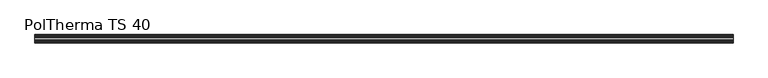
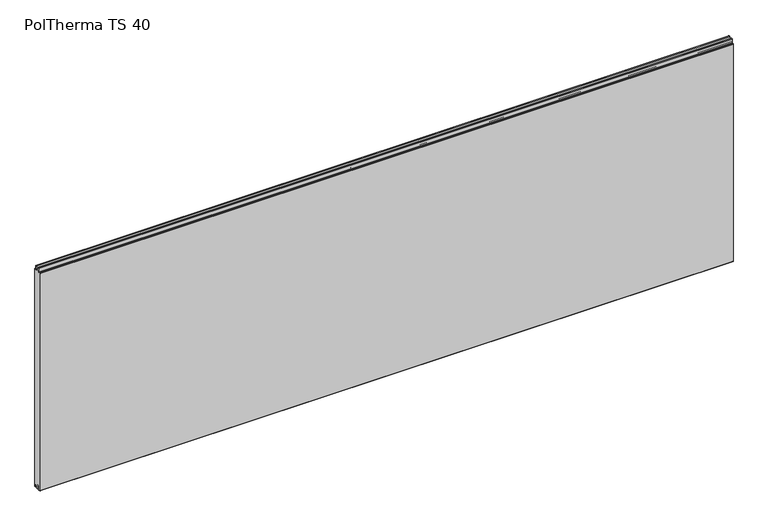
"""IFC4 building model written with IfcOpenShell, lengths in millimetres: plate geometry, Europanels_Poltherma TS_Hz : PolTherma TS 40."""

from ifc_helpers import new_model, si_unit, point, frame, frame_2d, origin, place, context, project, spatial, polyline, circle_curve, trimmed, segment, composite_curve, outline, extrude, source, transform, mapped, element, save


def poltherma_ts_40_e0eb3698(model_context):
    return source(origin(), model_context, "Body", "SweptSolid", [
        extrude(outline(composite_curve([segment(trimmed(circle_curve(frame_2d((-9.1874198, 1117.5011047)), 2.0), [point((-11.1836192, 1117.624345))], [point((-9.1874198, 1119.5011047))], False, "CARTESIAN"), True, "CONTINUOUS"), segment(polyline([(-9.1874198, 1119.5011047), (-6.4480373, 1119.5011047)]), True, "CONTINUOUS"), segment(trimmed(circle_curve(frame_2d((-6.4480373, 1117.5011047)), 2.0), [point((-6.4480373, 1119.5011047))], [point((-4.4498501, 1117.5862394))], False, "CARTESIAN"), True, "CONTINUOUS"), segment(polyline([(-4.4498501, 1117.5862394), (-3.7101357, 1100.2244834)]), True, "CONTINUOUS"), segment(trimmed(circle_curve(frame_2d((-1.9117672, 1100.3011047)), 1.8), [point((-3.7101357, 1100.2244834))], [point((-1.9117672, 1098.5011047))], True, "CARTESIAN"), True, "CONTINUOUS"), segment(polyline([(-1.9117672, 1098.5011047), (6.113894, 1098.5011047)]), True, "CONTINUOUS"), segment(trimmed(circle_curve(frame_2d((6.113894, 1100.5011047)), 2.0), [point((6.113894, 1098.5011047))], [point((8.1120505, 1100.4152514))], True, "CARTESIAN"), True, "CONTINUOUS"), segment(polyline([(8.1120505, 1100.4152514), (8.8693289, 1117.5889644)]), True, "CONTINUOUS"), segment(trimmed(circle_curve(frame_2d((10.8984404, 1117.5046542)), 2.0308623), [point((8.8693289, 1117.5889644))], [point((11.1407625, 1119.5210078))], False, "CARTESIAN"), True, "CONTINUOUS"), segment(trimmed(circle_curve(frame_2d((11.1407625, 1117.4973942)), 2.0236135), [point((11.1407625, 1119.5210078))], [point((13.1604251, 1117.6237846))], False, "CARTESIAN"), True, "CONTINUOUS"), segment(polyline([(13.1604251, 1117.6237846), (14.2596673, 1100.3765791)]), True, "CONTINUOUS"), segment(trimmed(circle_curve(frame_2d((16.2557869, 1100.5011047)), 2.0), [point((14.2596673, 1100.3765791))], [point((16.2557869, 1098.5011047))], True, "CARTESIAN"), True, "CONTINUOUS"), segment(polyline([(16.2557869, 1098.5011047), (18.0, 1098.5011047)]), True, "CONTINUOUS"), segment(trimmed(circle_curve(frame_2d((18.0, 1096.5011047)), 2.0), [point((18.0, 1098.5011047))], [point((20.0, 1096.5011047))], False, "CARTESIAN"), True, "CONTINUOUS"), segment(polyline([(20.0, 1096.5011047), (20.0, 3.8074585)]), True, "CONTINUOUS"), segment(trimmed(circle_curve(frame_2d((17.6334587, 3.8074585)), 2.3665413), [point((20.0, 3.8074585))], [point((15.2703732, 3.6796133))], False, "CARTESIAN"), True, "CONTINUOUS"), segment(polyline([(15.2703732, 3.6796133), (14.3268153, 21.1203008)]), True, "CONTINUOUS"), segment(trimmed(circle_curve(frame_2d((11.0497759, 20.9430098)), 3.2818316), [point((14.3268153, 21.1203008))], [point((7.7733842, 21.1318916))], True, "CARTESIAN"), True, "CONTINUOUS"), segment(polyline([(7.7733842, 21.1318916), (6.7366349, 3.1481762)]), True, "CONTINUOUS"), segment(trimmed(circle_curve(frame_2d((4.9895357, 3.2488953)), 1.75), [point((6.7366349, 3.1481762))], [point((4.9895357, 1.4988953))], False, "CARTESIAN"), True, "CONTINUOUS"), segment(polyline([(4.9895357, 1.4988953), (-0.5507777, 1.4988953)]), True, "CONTINUOUS"), segment(trimmed(circle_curve(frame_2d((-0.5507777, 3.2988953)), 1.8), [point((-0.5507777, 1.4988953))], [point((-2.3477941, 3.1952985))], False, "CARTESIAN"), True, "CONTINUOUS"), segment(polyline([(-2.3477941, 3.1952985), (-3.3842966, 21.1747334)]), True, "CONTINUOUS"), segment(trimmed(circle_curve(frame_2d((-6.3793238, 21.0020721)), 3.0), [point((-3.3842966, 21.1747334))], [point((-6.3793238, 24.0020721))], True, "CARTESIAN"), True, "CONTINUOUS"), segment(polyline([(-6.3793238, 24.0020721), (-9.3209015, 24.0020721)]), True, "CONTINUOUS"), segment(trimmed(circle_curve(frame_2d((-9.3209015, 21.0020721)), 3.0), [point((-9.3209015, 24.0020721))], [point((-12.3165207, 21.1641379))], True, "CARTESIAN"), True, "CONTINUOUS"), segment(polyline([(-12.3165207, 21.1641379), (-13.2780726, 3.3908514)]), True, "CONTINUOUS"), segment(trimmed(circle_curve(frame_2d((-15.2751521, 3.4988953)), 2.0), [point((-13.2780726, 3.3908514))], [point((-15.2751521, 1.4988953))], False, "CARTESIAN"), True, "CONTINUOUS"), segment(polyline([(-15.2751521, 1.4988953), (-18.0, 1.4988953)]), True, "CONTINUOUS"), segment(trimmed(circle_curve(frame_2d((-18.0, 3.4988953)), 2.0), [point((-18.0, 1.4988953))], [point((-20.0, 3.4988953))], False, "CARTESIAN"), True, "CONTINUOUS"), segment(polyline([(-20.0, 3.4988953), (-20.0, 1096.5011047)]), True, "CONTINUOUS"), segment(trimmed(circle_curve(frame_2d((-18.0, 1096.5011047)), 2.0), [point((-20.0, 1096.5011047))], [point((-18.0, 1098.5011047))], False, "CARTESIAN"), True, "CONTINUOUS"), segment(polyline([(-18.0, 1098.5011047), (-14.244573, 1098.5011047)]), True, "CONTINUOUS"), segment(trimmed(circle_curve(frame_2d((-14.244573, 1100.5011047)), 2.0), [point((-14.244573, 1098.5011047))], [point((-12.2483736, 1100.3778643))], True, "CARTESIAN"), True, "CONTINUOUS"), segment(polyline([(-12.2483736, 1100.3778643), (-11.1836192, 1117.624345)]), True, "CONTINUOUS")], self_intersect=False)), frame((-1650.0, 0.0, 0.0), z_axis=(1.0, 0.0, 0.0), x_axis=(0.0, 1.0, 0.0)), (0.0, 0.0, 1.0), 3300.0),
    ])


if __name__ == "__main__":
    model = new_model("IFC4")
    model_context = context("Model", 3, world=origin())
    ifc_project = project(units=[si_unit("LENGTHUNIT", "METRE", prefix="MILLI")], contexts=[model_context])
    site = spatial("IfcSite", under=ifc_project)
    building = spatial("IfcBuilding", under=site)
    placement = place(None, origin())
    poltherma_ts_40_shape = poltherma_ts_40_e0eb3698(model_context)
    element("IfcPlate", 1, ObjectType="Europanels_Poltherma TS_Hz : PolTherma TS 40", at=placement, inside=building, context=model_context, shape_type="MappedRepresentation", body=[
        mapped(poltherma_ts_40_shape, transform((0.0, 0.0, 0.0), x_axis=(1.0, 0.0, 0.0), y_axis=(0.0, 1.0, 0.0), z_axis=(0.0, 0.0, 1.0))),
    ])
    save(model, "model.ifc")
